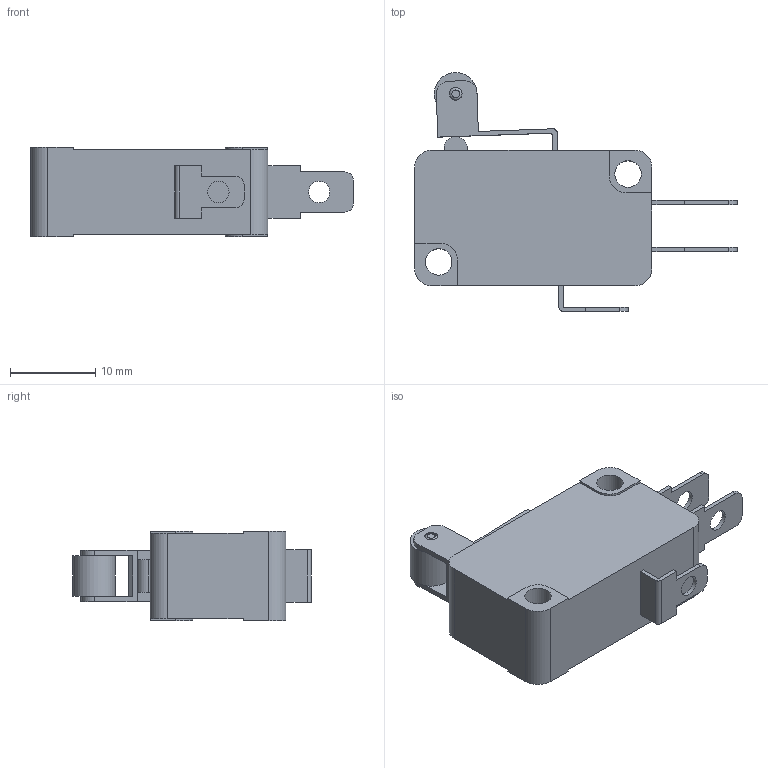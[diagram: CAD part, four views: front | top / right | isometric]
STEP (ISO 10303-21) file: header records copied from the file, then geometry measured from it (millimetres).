
FILE_DESCRIPTION(/* description */ (''),/* implementation_level */ '2;1');
FILE_NAME(/* name */ 'E:\Inventor 2016\제품 외형도\(완료) 리미트 스위치\소형 마이크로 스위치 (V형)\YS R1-15C.stp',/* time_stamp */ '2019-04-09T10:04:05+09:00',/* author */ ('Kim'),/* organization */ (''),/* preprocessor_version */ 'ST-DEVELOPER v16.1',/* originating_system */ 'Autodesk Inventor 2016',/* authorisation */ '');
FILE_SCHEMA (('AUTOMOTIVE_DESIGN { 1 0 10303 214 3 1 1 }'));
Length unit declared in the file: millimetre
Products named in the file (1): YS R1-15C
Bounding box: 37.8 x 28 x 10.5 mm (x, y, z)
Volume: 4495.4 mm3; surface area: 2942.2 mm2
Topology: 4 solids, 4 shells, 113 faces, 295 edges, 196 vertices
Faces by surface type: plane 79, cylinder 32, torus 2
Full cylindrical faces by diameter (mm): 1.5 x4, 2.5 x3, 3.1 x2, 5 x1
Entity records: 3541 total; most frequent: CARTESIAN_POINT 593, DIRECTION 577, ORIENTED_EDGE 566, EDGE_CURVE 283, LINE 217, VECTOR 217, VERTEX_POINT 196, AXIS2_PLACEMENT_3D 180
